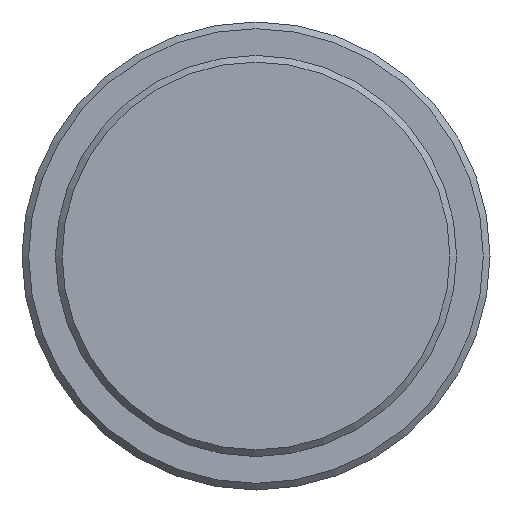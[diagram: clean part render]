
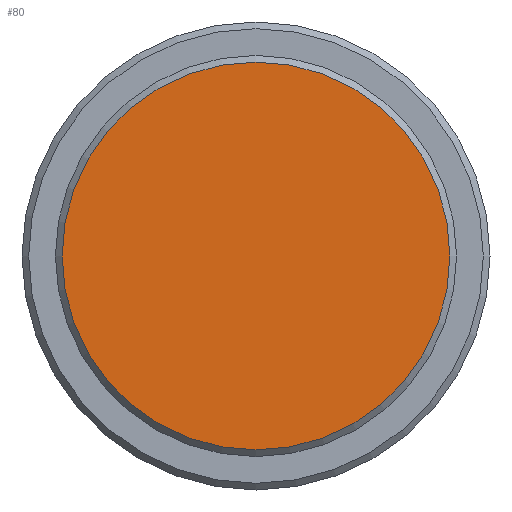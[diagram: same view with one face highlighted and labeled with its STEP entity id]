
A CAD part, front view. The second image highlights one B-rep face of the part: STEP entity #80.
In plain terms, the highlighted planar face has unit normal (0, -1, 0).
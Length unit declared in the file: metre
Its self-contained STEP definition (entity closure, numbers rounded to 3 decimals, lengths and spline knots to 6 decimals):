
#80 = ADVANCED_FACE( '', ( #113 ), #114, .T. );
#113 = FACE_OUTER_BOUND( '', #189, .T. );
#114 = PLANE( '', #190 );
#189 = EDGE_LOOP( '', ( #271 ) );
#190 = AXIS2_PLACEMENT_3D( '', #272, #273, #274 );
#271 = ORIENTED_EDGE( '', *, *, #389, .T. );
#272 = CARTESIAN_POINT( '', ( 0., -0.009, 0. ) );
#273 = DIRECTION( '', ( 0., -1., 0. ) );
#274 = DIRECTION( '', ( 0., 0., -1. ) );
#389 = EDGE_CURVE( '', #418, #418, #419, .T. );
#418 = VERTEX_POINT( '', #468 );
#419 = CIRCLE( '', #469, 0.0145 );
#468 = CARTESIAN_POINT( '', ( 0., -0.009, -0.0145 ) );
#469 = AXIS2_PLACEMENT_3D( '', #522, #523, #524 );
#522 = CARTESIAN_POINT( '', ( 0., -0.009, 0. ) );
#523 = DIRECTION( '', ( 0., -1., 0. ) );
#524 = DIRECTION( '', ( 0., 0., -1. ) );
